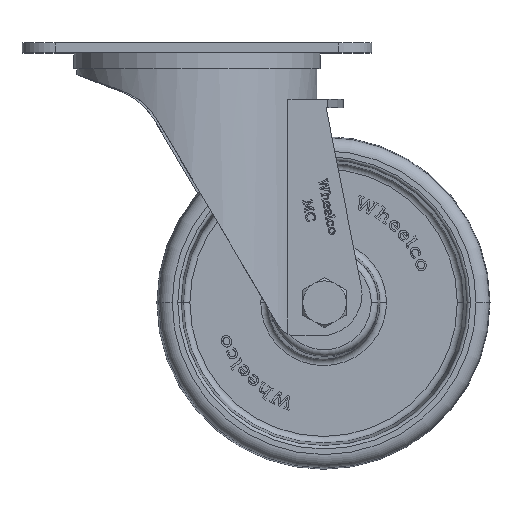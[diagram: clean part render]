
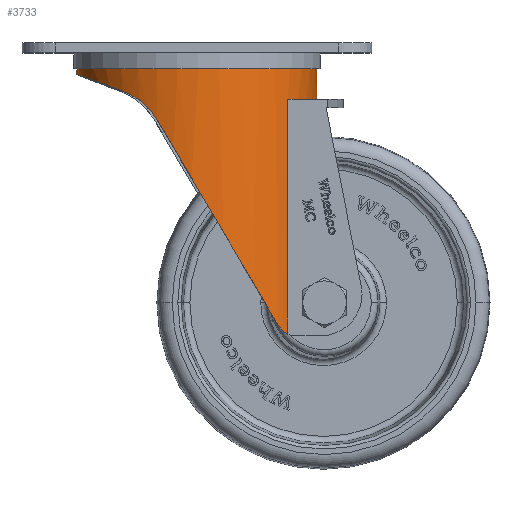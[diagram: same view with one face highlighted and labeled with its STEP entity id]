
A CAD part, top view. The second image highlights one B-rep face of the part: STEP entity #3733.
In plain terms, the highlighted cylindrical face has radius 36 mm (diameter 72 mm), a partial arc.
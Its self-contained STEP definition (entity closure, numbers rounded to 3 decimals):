
#174 = EDGE_CURVE ( 'NONE', #21768, #28488, #16637, .T. ) ;
#249 = CYLINDRICAL_SURFACE ( 'NONE', #14884, 36. ) ;
#489 = AXIS2_PLACEMENT_3D ( 'NONE', #12165, #12353, #6199 ) ;
#944 = DIRECTION ( 'NONE',  ( 0., 0., -1. ) ) ;
#1360 = ORIENTED_EDGE ( 'NONE', *, *, #2737, .F. ) ;
#1853 = CARTESIAN_POINT ( 'NONE',  ( -31.212, 70.996, -17.947 ) ) ;
#2046 = CARTESIAN_POINT ( 'NONE',  ( -28.021, 73.476, -22.602 ) ) ;
#2737 = EDGE_CURVE ( 'NONE', #6980, #37058, #5881, .T. ) ;
#3442 = CIRCLE ( 'NONE', #4091, 36. ) ;
#3659 = CARTESIAN_POINT ( 'NONE',  ( 0., 71., 36. ) ) ;
#3685 = LINE ( 'NONE', #30681, #21481 ) ;
#3733 = ADVANCED_FACE ( 'NONE', ( #24119 ), #249, .T. ) ;
#4091 = AXIS2_PLACEMENT_3D ( 'NONE', #9802, #13082, #944 ) ;
#4343 = DIRECTION ( 'NONE',  ( 0., -1., 0. ) ) ;
#4856 = ORIENTED_EDGE ( 'NONE', *, *, #174, .T. ) ;
#4938 = CARTESIAN_POINT ( 'NONE',  ( -32.593, 68.769, -15.311 ) ) ;
#5224 = CARTESIAN_POINT ( 'NONE',  ( -26.732, 3.191, 24.113 ) ) ;
#5881 =( BOUNDED_CURVE ( )  B_SPLINE_CURVE ( 3, ( #26547, #32501, #11351, #29253 ),
 .UNSPECIFIED., .F., .T. ) 
 B_SPLINE_CURVE_WITH_KNOTS ( ( 4, 4 ),
 ( 2.25, 3.142 ),
 .UNSPECIFIED. ) 
 CURVE ( )  GEOMETRIC_REPRESENTATION_ITEM ( )  RATIONAL_B_SPLINE_CURVE ( ( 1., 0.935, 0.935, 1. ) ) 
 REPRESENTATION_ITEM ( '' )  );
#6199 = DIRECTION ( 'NONE',  ( 0., 0., 1. ) ) ;
#6980 = VERTEX_POINT ( 'NONE', #20102 ) ;
#7455 = CARTESIAN_POINT ( 'NONE',  ( -28.774, 73.126, -21.668 ) ) ;
#7935 = EDGE_CURVE ( 'NONE', #13996, #37058, #3685, .T. ) ;
#9064 = VERTEX_POINT ( 'NONE', #29398 ) ;
#9214 = ORIENTED_EDGE ( 'NONE', *, *, #18799, .F. ) ;
#9235 = LINE ( 'NONE', #14646, #34847 ) ;
#9526 = ORIENTED_EDGE ( 'NONE', *, *, #14314, .F. ) ;
#9802 = CARTESIAN_POINT ( 'NONE',  ( 0., 71., 0. ) ) ;
#9866 = DIRECTION ( 'NONE',  ( 0., -1., 0. ) ) ;
#10536 = CARTESIAN_POINT ( 'NONE',  ( -31.472, 70.656, -17.487 ) ) ;
#10917 = CARTESIAN_POINT ( 'NONE',  ( -32.19, 69.574, -16.151 ) ) ;
#11351 = CARTESIAN_POINT ( 'NONE',  ( -11.075, 78.5, -36. ) ) ;
#11574 = CARTESIAN_POINT ( 'NONE',  ( -24.919, 1.124, 25.992 ) ) ;
#11836 =( BOUNDED_CURVE ( )  B_SPLINE_CURVE ( 3, ( #25196, #19017, #21526, #33257 ),
 .UNSPECIFIED., .F., .F. ) 
 B_SPLINE_CURVE_WITH_KNOTS ( ( 4, 4 ),
 ( 0.837, 1.923 ),
 .UNSPECIFIED. ) 
 CURVE ( )  GEOMETRIC_REPRESENTATION_ITEM ( )  RATIONAL_B_SPLINE_CURVE ( ( 1., 0.904, 0.904, 1. ) ) 
 REPRESENTATION_ITEM ( '' )  );
#12165 = CARTESIAN_POINT ( 'NONE',  ( 0., 80.2, 0. ) ) ;
#12353 = DIRECTION ( 'NONE',  ( 0., 1., 0. ) ) ;
#13082 = DIRECTION ( 'NONE',  ( 0., -1., 0. ) ) ;
#13636 = CARTESIAN_POINT ( 'NONE',  ( -29.453, 72.695, -20.73 ) ) ;
#13996 = VERTEX_POINT ( 'NONE', #22454 ) ;
#14006 = CARTESIAN_POINT ( 'NONE',  ( -33.793, 64.932, -12.41 ) ) ;
#14314 = EDGE_CURVE ( 'NONE', #34912, #19789, #3442, .T. ) ;
#14476 = CARTESIAN_POINT ( 'NONE',  ( -24.357, 0.804, 26.521 ) ) ;
#14646 = CARTESIAN_POINT ( 'NONE',  ( -23.75, 85., 27.054 ) ) ;
#14847 = CARTESIAN_POINT ( 'NONE',  ( -23.75, 71., 27.054 ) ) ;
#14884 = AXIS2_PLACEMENT_3D ( 'NONE', #26644, #35864, #32965 ) ;
#15179 = ORIENTED_EDGE ( 'NONE', *, *, #15489, .T. ) ;
#15464 = CARTESIAN_POINT ( 'NONE',  ( 0., 80.2, 36. ) ) ;
#15489 = EDGE_CURVE ( 'NONE', #6980, #9064, #35721, .T. ) ;
#16637 = B_SPLINE_CURVE_WITH_KNOTS ( 'NONE', 3,
 ( #35252, #17550, #20617, #11574, #14476, #32175 ),
 .UNSPECIFIED., .F., .F.,
 ( 4, 2, 4 ),
 ( 0., 0.002, 0.005 ),
 .UNSPECIFIED. ) ;
#17550 = CARTESIAN_POINT ( 'NONE',  ( -26.378, 2.529, 24.504 ) ) ;
#17830 = EDGE_CURVE ( 'NONE', #19789, #28488, #9235, .T. ) ;
#18460 = CARTESIAN_POINT ( 'NONE',  ( -23.75, 0.566, 27.054 ) ) ;
#18799 = EDGE_CURVE ( 'NONE', #13996, #19406, #24457, .T. ) ;
#19017 = CARTESIAN_POINT ( 'NONE',  ( -35.918, 20.406, 13.929 ) ) ;
#19406 = VERTEX_POINT ( 'NONE', #15464 ) ;
#19789 = VERTEX_POINT ( 'NONE', #14847 ) ;
#20102 = CARTESIAN_POINT ( 'NONE',  ( -28.021, 73.476, -22.602 ) ) ;
#20617 = CARTESIAN_POINT ( 'NONE',  ( -25.941, 1.997, 24.972 ) ) ;
#21233 = CARTESIAN_POINT ( 'NONE',  ( 0., 78.5, -36. ) ) ;
#21481 = VECTOR ( 'NONE', #9866, 1000. ) ;
#21526 = CARTESIAN_POINT ( 'NONE',  ( -38.521, 43.169, 0.464 ) ) ;
#21768 = VERTEX_POINT ( 'NONE', #5224 ) ;
#22071 = CARTESIAN_POINT ( 'NONE',  ( 0., 85., 36. ) ) ;
#22095 = ORIENTED_EDGE ( 'NONE', *, *, #22114, .F. ) ;
#22100 = CARTESIAN_POINT ( 'NONE',  ( -33.264, 66.958, -13.771 ) ) ;
#22114 = EDGE_CURVE ( 'NONE', #19406, #34912, #27869, .T. ) ;
#22284 = ORIENTED_EDGE ( 'NONE', *, *, #17830, .F. ) ;
#22454 = CARTESIAN_POINT ( 'NONE',  ( 0., 80.2, -36. ) ) ;
#22662 = CARTESIAN_POINT ( 'NONE',  ( -30.374, 71.906, -19.333 ) ) ;
#23294 = VECTOR ( 'NONE', #4343, 1000. ) ;
#24119 = FACE_OUTER_BOUND ( 'NONE', #32020, .T. ) ;
#24457 = CIRCLE ( 'NONE', #489, 36. ) ;
#25193 = CARTESIAN_POINT ( 'NONE',  ( -30.664, 71.62, -18.868 ) ) ;
#25196 = CARTESIAN_POINT ( 'NONE',  ( -26.732, 3.191, 24.113 ) ) ;
#26547 = CARTESIAN_POINT ( 'NONE',  ( -28.021, 73.476, -22.602 ) ) ;
#26644 = CARTESIAN_POINT ( 'NONE',  ( 0., 85., 0. ) ) ;
#27869 = LINE ( 'NONE', #22071, #23294 ) ;
#28488 = VERTEX_POINT ( 'NONE', #18460 ) ;
#29253 = CARTESIAN_POINT ( 'NONE',  ( 0., 78.5, -36. ) ) ;
#29398 = CARTESIAN_POINT ( 'NONE',  ( -33.793, 64.932, -12.41 ) ) ;
#29663 = DIRECTION ( 'NONE',  ( 0., -1., 0. ) ) ;
#30134 = ORIENTED_EDGE ( 'NONE', *, *, #31658, .F. ) ;
#30681 = CARTESIAN_POINT ( 'NONE',  ( 0., 85., -36. ) ) ;
#31336 = CARTESIAN_POINT ( 'NONE',  ( -33.55, 65.973, -13.059 ) ) ;
#31658 = EDGE_CURVE ( 'NONE', #21768, #9064, #11836, .T. ) ;
#32020 = EDGE_LOOP ( 'NONE', ( #22095, #9214, #33804, #1360, #15179, #30134, #4856, #22284, #9526 ) ) ;
#32175 = CARTESIAN_POINT ( 'NONE',  ( -23.75, 0.566, 27.054 ) ) ;
#32501 = CARTESIAN_POINT ( 'NONE',  ( -21.067, 76.708, -31.222 ) ) ;
#32965 = DIRECTION ( 'NONE',  ( 0., 0., -1. ) ) ;
#33257 = CARTESIAN_POINT ( 'NONE',  ( -33.793, 64.932, -12.41 ) ) ;
#33804 = ORIENTED_EDGE ( 'NONE', *, *, #7935, .T. ) ;
#34402 = CARTESIAN_POINT ( 'NONE',  ( -33.678, 65.461, -12.723 ) ) ;
#34847 = VECTOR ( 'NONE', #29663, 1000. ) ;
#34912 = VERTEX_POINT ( 'NONE', #3659 ) ;
#35252 = CARTESIAN_POINT ( 'NONE',  ( -26.732, 3.191, 24.113 ) ) ;
#35721 = B_SPLINE_CURVE_WITH_KNOTS ( 'NONE', 3,
 ( #2046, #7455, #13636, #22662, #25193, #1853, #10536, #10917, #4938, #37088, #22100, #31336, #34402, #14006 ),
 .UNSPECIFIED., .F., .F.,
 ( 4, 2, 2, 2, 2, 2, 4 ),
 ( 0., 0.004, 0.006, 0.007, 0.011, 0.013, 0.015 ),
 .UNSPECIFIED. ) ;
#35864 = DIRECTION ( 'NONE',  ( 0., -1., 0. ) ) ;
#37058 = VERTEX_POINT ( 'NONE', #21233 ) ;
#37088 = CARTESIAN_POINT ( 'NONE',  ( -33.108, 67.427, -14.145 ) ) ;
